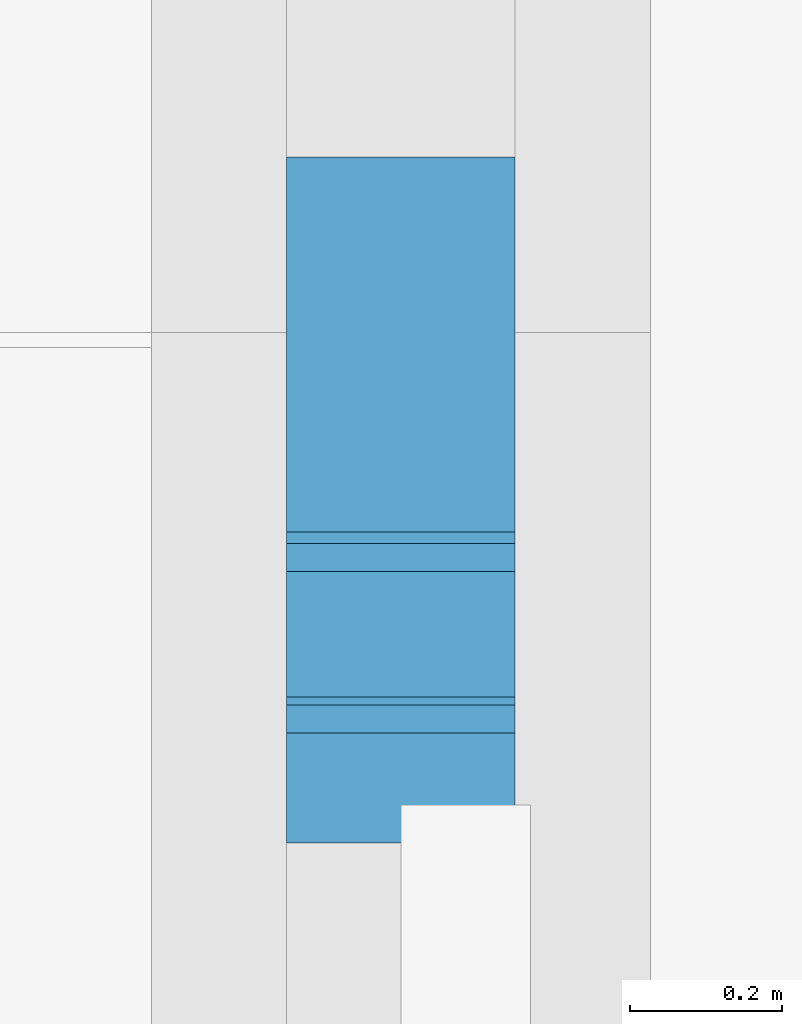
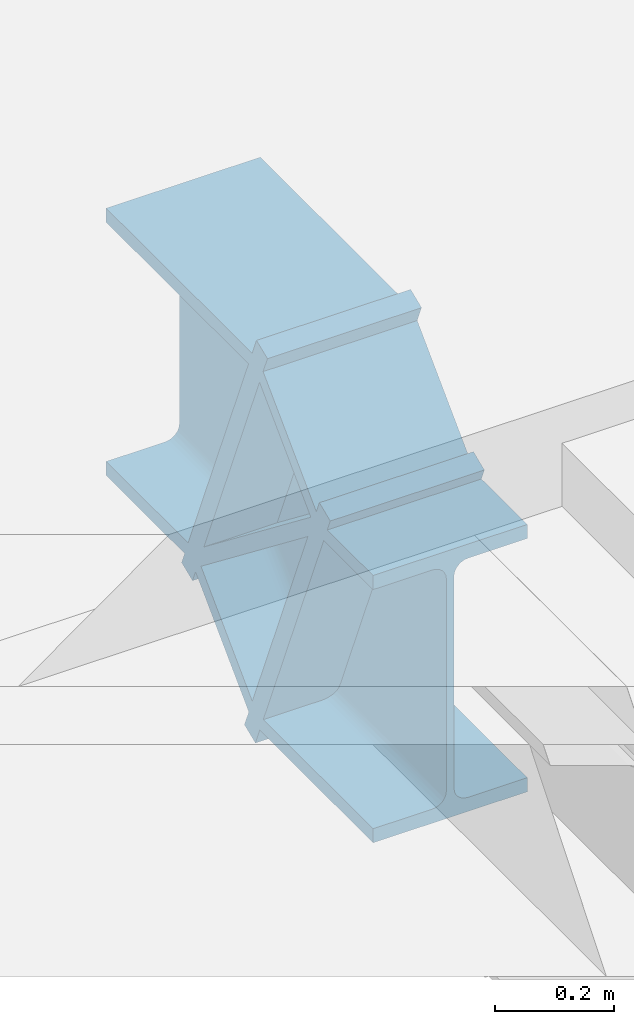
# One storey, part 45 of 50: 1 beam.
"""IFC2X3 building model written with IfcOpenShell, lengths in millimetres."""

from ifc_helpers import new_model, entity, si_unit, converted_unit, derived_unit, direction, frame, origin, place, context, subcontext, project, spatial, faceted_brep, source, transform, mapped, material, type_object, type_shapes, element, save


model = new_model("IFC2X3")

# Units and contexts
model_context = context("Model", 3, precision=0.01, world=origin(), true_north=direction((6.12303176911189e-17, 1.0)))
body_context = subcontext(model_context, "Body", "Model", "MODEL_VIEW")
ifc_project = project(units=[si_unit("LENGTHUNIT", "METRE", prefix="MILLI"), si_unit("AREAUNIT", "SQUARE_METRE", prefix="MILLI"), si_unit("VOLUMEUNIT", "CUBIC_METRE"), converted_unit("PLANEANGLEUNIT", "DEGREE", entity("IfcRatioMeasure", 0.0174532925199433), si_unit("PLANEANGLEUNIT", "RADIAN"), dimensions=[0, 0, 0, 0, 0, 0, 0]), si_unit("MASSUNIT", "GRAM", prefix="KILO"), derived_unit("MASSDENSITYUNIT", [(si_unit("MASSUNIT", "GRAM", prefix="KILO"), 1), (si_unit("LENGTHUNIT", "METRE"), -3)]), derived_unit("MOMENTOFINERTIAUNIT", [(si_unit("LENGTHUNIT", "METRE"), 4)]), si_unit("TIMEUNIT", "SECOND"), si_unit("FREQUENCYUNIT", "HERTZ"), si_unit("THERMODYNAMICTEMPERATUREUNIT", "DEGREE_CELSIUS"), derived_unit("THERMALTRANSMITTANCEUNIT", [(si_unit("MASSUNIT", "GRAM", prefix="KILO"), 1), (si_unit("THERMODYNAMICTEMPERATUREUNIT", "KELVIN"), -1), (si_unit("TIMEUNIT", "SECOND"), -3)]), derived_unit("VOLUMETRICFLOWRATEUNIT", [(si_unit("LENGTHUNIT", "METRE"), 3), (si_unit("TIMEUNIT", "SECOND"), -1)]), si_unit("ELECTRICCURRENTUNIT", "AMPERE"), si_unit("ELECTRICVOLTAGEUNIT", "VOLT"), si_unit("POWERUNIT", "WATT"), si_unit("FORCEUNIT", "NEWTON", prefix="KILO"), si_unit("ILLUMINANCEUNIT", "LUX"), si_unit("LUMINOUSFLUXUNIT", "LUMEN"), si_unit("LUMINOUSINTENSITYUNIT", "CANDELA"), derived_unit("USERDEFINED", [(si_unit("MASSUNIT", "GRAM", prefix="KILO"), -1), (si_unit("LENGTHUNIT", "METRE"), -2), (si_unit("TIMEUNIT", "SECOND"), 3), (si_unit("LUMINOUSFLUXUNIT", "LUMEN"), 1)]), derived_unit("LINEARVELOCITYUNIT", [(si_unit("LENGTHUNIT", "METRE"), 1), (si_unit("TIMEUNIT", "SECOND"), -1)]), si_unit("PRESSUREUNIT", "PASCAL"), derived_unit("USERDEFINED", [(si_unit("LENGTHUNIT", "METRE"), -2), (si_unit("MASSUNIT", "GRAM", prefix="KILO"), 1), (si_unit("TIMEUNIT", "SECOND"), -2)]), derived_unit("LINEARFORCEUNIT", [(si_unit("MASSUNIT", "GRAM", prefix="KILO"), 1), (si_unit("LENGTHUNIT", "METRE"), 1), (si_unit("TIMEUNIT", "SECOND"), -2), (si_unit("LENGTHUNIT", "METRE"), -1)]), derived_unit("PLANARFORCEUNIT", [(si_unit("MASSUNIT", "GRAM", prefix="KILO"), 1), (si_unit("LENGTHUNIT", "METRE"), 1), (si_unit("TIMEUNIT", "SECOND"), -2), (si_unit("LENGTHUNIT", "METRE"), -2)])], contexts=[model_context])

# Site, building, storey
site_placement = place(None, origin())
site = spatial("IfcSite", under=ifc_project, at=site_placement, Name="Theater aan de Parade", CompositionType="ELEMENT")
building_placement = place(site_placement, origin())
building = spatial("IfcBuilding", under=site, at=building_placement, Name="Theater aan de Parade", CompositionType="ELEMENT")
storey_placement = place(building_placement, frame((0.0, 0.0, 15820.0)))
storey = spatial("IfcBuildingStorey", under=building, at=storey_placement, Name="04 vierde verdieping", CompositionType="ELEMENT", Elevation=15820.0)

# Beam
ifc_material = material(Name="00_PBT_MAT_staal_S355")
beam_type = type_object("IfcBeamType", Name="28_PBT_SF_staal_H-profiel_geknikt:S355_HE550B_knikhoogte=210", PredefinedType="BEAM", material=ifc_material)
shared_shape = source(origin(), body_context, "Body", "Brep", [
    faceted_brep([(300.0, 900.0, 795.371363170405), (300.0, 386.091270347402, 795.371363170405), (300.0, 176.091270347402, 585.371363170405), (300.0, 0.0, 585.371363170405), (300.0, 0.0, 556.371363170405), (300.0, 188.103463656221, 556.371363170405), (300.0, 398.103463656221, 766.371363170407), (300.0, 900.0, 766.371363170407), (300.0, 900.0, 274.371363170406), (300.0, 601.896536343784, 274.371363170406), (300.0, 391.896536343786, 64.3713631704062), (300.0, 0.0, 64.3713631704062), (300.0, 0.0, 35.3713631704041), (300.0, 403.908729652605, 35.3713631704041), (300.0, 613.908729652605, 245.371363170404), (300.0, 900.0, 245.371363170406), (168.304262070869, 588.559391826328, 760.723189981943), (163.242517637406, 650.719886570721, 755.689863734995), (168.25906070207, 761.551343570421, 760.68858002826), (159.593312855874, 708.244302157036, 749.395157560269), (158.017580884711, 654.747168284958, 744.181641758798), (158.437039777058, 900.0, 745.988886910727), (157.500000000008, 592.6008633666, 738.871363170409), (157.500000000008, 716.893473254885, 738.871363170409), (171.250000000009, 399.629551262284, 762.687061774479), (174.476205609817, 649.814775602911, 764.278050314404), (177.882476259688, 398.491598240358, 765.434323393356), (185.0, 398.103463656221, 766.371363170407), (179.919141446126, 559.813622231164, 765.897921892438), (185.0, 649.051731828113, 766.371363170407), (165.55456351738, 401.439773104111, 758.316799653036), (177.882476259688, 900.0, 765.434323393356), (179.641890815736, 731.812000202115, 765.844324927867), (171.250000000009, 900.0, 762.687061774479), (185.0, 900.0, 766.371363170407), (165.55456351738, 900.0, 758.316799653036), (159.161507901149, 551.362152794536, 748.285306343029), (161.184301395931, 403.798900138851, 752.621363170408), (158.437039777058, 406.546161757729, 745.988886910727), (157.500000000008, 409.494336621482, 738.871363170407), (157.500000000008, 900.0, 738.871363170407), (161.18430139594, 900.0, 752.621363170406), (157.500000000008, 590.505663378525, 301.871363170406), (157.500000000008, 773.612190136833, 301.871363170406), (157.500000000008, 900.0, 301.871363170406), (157.500000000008, 304.494336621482, 633.871363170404), (157.500000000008, 199.494336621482, 528.871363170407), (157.499999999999, 0.0, 528.871363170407), (157.499999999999, 0.0, 91.8713631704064), (157.500000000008, 183.106526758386, 91.8713631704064), (157.500000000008, 380.505663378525, 91.8713631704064), (157.500000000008, 485.505663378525, 196.871363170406), (127.024330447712, 750.185224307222, 277.139491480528), (128.75000000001, 900.0, 278.055664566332), (122.117523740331, 900.0, 275.308402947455), (122.117523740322, 601.508401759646, 275.308402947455), (122.181112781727, 750.754200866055, 275.325523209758), (115.0, 716.893653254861, 274.371363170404), (141.976082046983, 752.754606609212, 296.528985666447), (140.406687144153, 748.100549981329, 291.347568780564), (141.56296022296, 593.453838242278, 294.753839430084), (134.445436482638, 900.0, 282.425926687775), (131.740939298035, 750.185224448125, 280.054146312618), (137.720207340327, 748.100549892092, 286.378068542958), (115.0, 900.0, 274.371363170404), (142.500000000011, 773.612190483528, 301.871363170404), (142.500000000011, 900.0, 301.871363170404), (142.500000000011, 590.505663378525, 301.871363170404), (138.815698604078, 596.201099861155, 288.121363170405), (128.75000000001, 600.37044873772, 278.055664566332), (134.445436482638, 598.560226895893, 282.425926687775), (141.56296022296, 900.0, 294.753839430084), (138.815698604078, 900.0, 288.121363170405), (115.0, 601.896536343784, 274.371363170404), (138.815698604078, 403.798900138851, 752.621363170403), (136.817216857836, 651.899450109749, 755.612302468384), (140.373732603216, 591.87504764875, 749.474367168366), (141.56296022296, 900.0, 745.988886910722), (141.962206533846, 654.747168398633, 744.283333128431), (140.699227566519, 755.521656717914, 748.659095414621), (141.562960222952, 406.546161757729, 745.988886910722), (142.500000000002, 592.601071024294, 738.871363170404), (134.445436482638, 900.0, 758.316799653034), (138.815698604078, 900.0, 752.621363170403), (131.74093929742, 710.890157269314, 760.688580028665), (128.75000000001, 900.0, 762.687061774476), (142.500000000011, 716.893265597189, 738.871363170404), (122.117523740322, 398.491598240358, 765.434323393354), (115.0, 398.103463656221, 766.371363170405), (120.371872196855, 566.886534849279, 765.841587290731), (120.06892635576, 738.828899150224, 765.900162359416), (115.0, 649.051731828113, 766.371363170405), (142.500000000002, 409.494336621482, 738.871363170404), (142.500000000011, 900.0, 738.871363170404), (134.445436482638, 401.439773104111, 758.316799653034), (122.117523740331, 900.0, 765.434323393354), (125.523794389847, 649.814775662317, 764.278050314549), (115.0, 900.0, 766.371363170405), (131.70780938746, 538.374718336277, 760.71396158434), (128.75000000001, 399.629551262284, 762.687061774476), (0.0, 900.0, 766.371363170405), (0.0, 398.103463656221, 766.371363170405), (0.0, 188.103463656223, 556.371363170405), (0.0, 0.0, 556.371363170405), (0.0, 0.0, 585.371363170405), (0.0, 176.091270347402, 585.371363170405), (0.0, 386.091270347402, 795.371363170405), (0.0, 900.0, 795.371363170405), (0.0, 900.0, 245.371363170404), (0.0, 613.908729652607, 245.371363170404), (0.0, 403.908729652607, 35.3713631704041), (0.0, 0.0, 35.3713631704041), (0.0, 0.0, 64.371363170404), (0.0, 391.896536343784, 64.371363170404), (0.0, 601.896536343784, 274.371363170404), (0.0, 900.0, 274.371363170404), (140.380740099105, 301.036031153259, 645.384232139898), (141.968729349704, 302.775221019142, 639.759827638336), (138.815698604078, 193.798900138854, 542.621363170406), (135.778811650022, 297.452210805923, 652.304361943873), (131.776369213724, 294.781927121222, 654.974645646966), (142.500000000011, 304.494336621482, 633.871363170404), (142.500000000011, 199.494336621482, 528.871363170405), (134.445436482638, 191.439773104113, 548.316799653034), (141.56296022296, 196.546161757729, 535.988886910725), (120.235943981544, 293.184726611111, 660.741195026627), (122.117523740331, 188.49159824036, 555.434323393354), (115.0, 188.103463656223, 556.371363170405), (115.0, 293.103463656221, 661.371363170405), (125.497777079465, 294.301597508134, 659.624324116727), (128.75000000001, 189.629551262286, 552.687061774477), (185.0, 188.103463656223, 556.371363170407), (185.0, 268.627596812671, 636.895496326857), (115.0, 0.0, 556.371363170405), (122.117523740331, 0.0, 555.434323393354), (128.75000000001, 0.0, 552.687061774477), (134.445436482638, 0.0, 548.316799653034), (138.815698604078, 0.0, 542.621363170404), (141.56296022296, 0.0, 535.988886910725), (142.500000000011, 0.0, 528.871363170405), (142.500000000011, 0.0, 91.8713631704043), (141.56296022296, 0.0, 84.7538394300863), (138.815698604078, 0.0, 78.1213631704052), (134.445436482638, 0.0, 72.4259266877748), (128.75000000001, 0.0, 68.0556645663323), (122.117523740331, 0.0, 65.3084029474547), (115.0, 0.0, 64.371363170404), (185.0, 0.0, 64.3713631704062), (177.882476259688, 0.0, 65.3084029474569), (171.250000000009, 0.0, 68.0556645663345), (165.55456351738, 0.0, 72.425926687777), (161.18430139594, 0.0, 78.1213631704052), (158.437039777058, 0.0, 84.7538394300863), (158.437039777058, 0.0, 535.988886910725), (161.18430139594, 0.0, 542.621363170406), (165.55456351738, 0.0, 548.316799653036), (171.250000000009, 0.0, 552.687061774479), (177.882476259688, 0.0, 555.434323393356), (185.0, 0.0, 556.371363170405), (131.705465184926, 493.976524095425, 174.449589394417), (128.75000000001, 390.370448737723, 68.0556645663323), (127.021881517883, 496.019122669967, 172.406990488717), (134.445436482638, 388.560226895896, 72.4259266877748), (122.203489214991, 496.492008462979, 170.324796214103), (115.0, 521.372341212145, 193.847168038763), (115.0, 391.896536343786, 64.371363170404), (141.990311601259, 488.487646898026, 192.40041710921), (142.500000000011, 380.505663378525, 91.8713631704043), (142.500000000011, 461.029796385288, 172.395496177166), (135.688939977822, 492.620725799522, 178.365427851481), (138.815698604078, 386.201099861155, 78.1213631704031), (122.117523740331, 391.508401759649, 65.3084029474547), (141.56296022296, 383.453838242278, 84.7538394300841), (140.432480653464, 490.818249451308, 187.389428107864), (185.0, 900.0, 274.371363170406), (185.0, 716.893473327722, 274.371363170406), (185.0, 601.896536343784, 274.371363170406), (185.0, 521.372403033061, 193.84722985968), (185.0, 391.896536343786, 64.3713631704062), (115.0, 208.789982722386, 64.371363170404), (185.0, 195.948268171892, 64.3713631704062), (165.55456351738, 191.439773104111, 548.316799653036), (171.250000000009, 189.629551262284, 552.687061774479), (177.882476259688, 188.491598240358, 555.434323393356), (158.437039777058, 196.546161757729, 535.988886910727), (161.18430139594, 193.798900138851, 542.621363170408), (159.593312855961, 748.100549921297, 291.347568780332), (162.279792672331, 748.100549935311, 286.37806852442), (161.18430139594, 900.0, 288.121363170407), (158.023917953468, 752.754606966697, 296.528985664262), (158.437039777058, 593.453838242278, 294.753839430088), (177.882476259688, 900.0, 275.308402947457), (179.692753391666, 749.411870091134, 274.888347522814), (161.184301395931, 596.201099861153, 288.121363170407), (165.55456351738, 598.560226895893, 282.425926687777), (168.223096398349, 749.280113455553, 280.081789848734), (165.55456351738, 900.0, 282.425926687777), (158.437039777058, 900.0, 294.753839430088), (171.250000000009, 600.37044873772, 278.055664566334), (174.476205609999, 750.754200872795, 276.464676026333), (177.882476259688, 601.508401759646, 275.308402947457), (171.250000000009, 900.0, 278.055664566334), (142.500000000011, 190.252831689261, 91.8713631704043), (174.50222291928, 294.301597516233, 659.624324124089), (179.708850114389, 292.397943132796, 659.93918676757), (158.031270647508, 302.775221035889, 639.759827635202), (168.223630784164, 294.781927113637, 654.974645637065), (164.221188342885, 297.452210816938, 652.304361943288), (159.619259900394, 301.036031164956, 645.384232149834), (171.250000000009, 390.370448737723, 68.0556645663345), (174.450199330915, 496.487819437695, 171.938293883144), (169.612650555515, 494.646649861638, 173.779463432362), (165.55456351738, 388.560226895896, 72.425926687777), (159.567519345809, 490.818249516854, 187.389428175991), (157.991465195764, 487.080841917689, 191.126835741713), (179.679590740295, 496.803592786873, 170.013211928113), (161.18430139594, 386.201099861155, 78.1213631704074), (162.126438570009, 492.273060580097, 182.049402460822), (158.437039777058, 383.453838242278, 84.7538394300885), (165.635567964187, 493.617268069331, 177.368885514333), (177.882476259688, 391.508401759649, 65.3084029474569), (120.232315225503, 152.062725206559, 64.8737173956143), (125.523794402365, 180.222747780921, 66.4646760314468), (131.740939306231, 194.280113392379, 70.0541463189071), (136.77439725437, 209.417972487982, 75.0747675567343), (141.96059642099, 153.449982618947, 86.4513778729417), (140.372842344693, 193.100549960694, 81.266228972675), (159.593312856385, 180.140479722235, 81.3475687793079), (163.182783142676, 193.100549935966, 75.1304238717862), (174.510537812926, 195.75420087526, 66.450482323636), (179.654163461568, 152.295440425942, 64.8959663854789), (158.02636499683, 149.979938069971, 86.5166442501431), (168.25906070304, 180.140479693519, 70.05414631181)], [[[0, 1, 2, 3, 4, 5, 6, 7]], [[8, 9, 10, 11, 12, 13, 14, 15]], [[16, 17, 18]], [[19, 20, 21]], [[20, 22, 23]], [[24, 16, 25]], [[25, 26, 24]], [[27, 28, 29]], [[24, 30, 16]], [[31, 32, 25]], [[31, 25, 33]], [[31, 34, 32]], [[33, 18, 35]], [[36, 37, 38]], [[28, 32, 29]], [[16, 30, 17]], [[33, 25, 18]], [[22, 38, 39]], [[23, 40, 21]], [[17, 19, 41]], [[30, 37, 17]], [[23, 21, 20]], [[19, 17, 36]], [[20, 36, 38]], [[36, 20, 19]], [[19, 21, 41]], [[22, 20, 38]], [[35, 17, 41]], [[37, 36, 17]], [[35, 18, 17]], [[16, 18, 25]], [[26, 25, 28]], [[29, 32, 34]], [[32, 28, 25]], [[26, 28, 27]], [[42, 43, 44, 40, 23, 22, 39, 45, 46, 47, 48, 49, 50, 51]], [[52, 53, 54]], [[55, 56, 57]], [[58, 59, 60]], [[61, 53, 62]], [[63, 61, 62]], [[57, 56, 64]], [[65, 66, 58, 67]], [[53, 52, 62]], [[68, 59, 63]], [[62, 69, 70]], [[56, 52, 54]], [[71, 72, 59]], [[55, 52, 56]], [[73, 55, 57]], [[58, 66, 71]], [[63, 70, 68]], [[59, 72, 63]], [[62, 70, 63]], [[60, 67, 58]], [[68, 60, 59]], [[71, 59, 58]], [[52, 55, 69]], [[72, 61, 63]], [[56, 54, 64]], [[69, 62, 52]], [[74, 75, 76]], [[77, 78, 79]], [[80, 78, 81]], [[82, 83, 75]], [[84, 85, 82]], [[78, 77, 86]], [[87, 88, 89]], [[90, 89, 91]], [[81, 92, 80]], [[77, 93, 86]], [[80, 74, 76]], [[75, 74, 94]], [[79, 83, 77]], [[95, 85, 96]], [[79, 78, 76]], [[81, 78, 86]], [[90, 91, 97]], [[75, 79, 76]], [[98, 84, 75]], [[84, 96, 85]], [[87, 96, 99]], [[96, 87, 89]], [[98, 99, 96]], [[82, 75, 84]], [[80, 76, 78]], [[98, 94, 99]], [[83, 79, 75]], [[94, 98, 75]], [[84, 98, 96]], [[95, 96, 90]], [[91, 89, 88]], [[89, 90, 96]], [[95, 90, 97]], [[100, 101, 102, 103, 104, 105, 106, 107]], [[108, 109, 110, 111, 112, 113, 114, 115]], [[74, 80, 116]], [[117, 80, 92]], [[118, 119, 116]], [[94, 120, 99]], [[121, 122, 117, 92]], [[123, 120, 119]], [[116, 80, 117]], [[116, 117, 124]], [[125, 126, 127]], [[119, 120, 94]], [[125, 127, 128, 88]], [[87, 99, 129]], [[118, 116, 124]], [[74, 116, 119]], [[126, 129, 130]], [[130, 120, 123]], [[87, 129, 125]], [[125, 129, 126]], [[120, 130, 129]], [[87, 125, 88]], [[119, 94, 74]], [[120, 129, 99]], [[124, 117, 122]], [[123, 119, 118]], [[6, 5, 131, 132, 27]], [[101, 88, 128, 127, 102]], [[109, 14, 13, 110]], [[4, 3, 104, 103, 133, 134, 135, 136, 137, 138, 139, 140, 141, 142, 143, 144, 145, 146, 112, 111, 12, 11, 147, 148, 149, 150, 151, 152, 48, 47, 153, 154, 155, 156, 157, 158]], [[69, 159, 70]], [[160, 159, 161]], [[162, 159, 160]], [[161, 159, 69]], [[163, 164, 165]], [[73, 164, 55]], [[166, 167, 168, 67]], [[70, 169, 68]], [[161, 55, 163]], [[169, 162, 170]], [[70, 159, 169]], [[160, 161, 171]], [[161, 69, 55]], [[163, 55, 164]], [[167, 166, 172]], [[173, 60, 68]], [[172, 173, 170]], [[159, 162, 169]], [[169, 170, 173]], [[173, 172, 166]], [[60, 166, 67]], [[163, 171, 161]], [[169, 173, 68]], [[165, 171, 163]], [[60, 173, 166]], [[34, 7, 6, 27, 29]], [[100, 97, 91, 88, 101]], [[8, 174, 175, 176, 9]], [[115, 114, 73, 57, 64]], [[108, 15, 14, 109]], [[73, 114, 113, 165, 164]], [[9, 176, 177, 178, 10]], [[1, 106, 105, 2]], [[113, 112, 146, 179, 165]], [[10, 178, 180, 147, 11]], [[155, 181, 182, 156]], [[156, 182, 183, 157]], [[157, 183, 131, 158]], [[47, 46, 184, 153]], [[153, 184, 185, 154]], [[155, 154, 185, 181]], [[186, 187, 188]], [[189, 190, 186]], [[191, 192, 174]], [[187, 186, 193]], [[194, 195, 187]], [[188, 187, 196]], [[187, 193, 194]], [[189, 44, 43, 42]], [[197, 186, 188]], [[186, 197, 189]], [[196, 187, 195]], [[190, 189, 42]], [[176, 175, 174, 192]], [[198, 199, 195]], [[199, 200, 192]], [[198, 195, 194]], [[186, 190, 193]], [[192, 200, 176]], [[199, 191, 201]], [[197, 44, 189]], [[199, 198, 200]], [[195, 199, 201]], [[192, 191, 199]], [[196, 195, 201]], [[138, 137, 118, 124]], [[139, 138, 124, 122]], [[136, 123, 118, 137]], [[134, 133, 127, 126]], [[135, 134, 126, 130]], [[135, 130, 123, 136]], [[2, 105, 104, 3]], [[131, 5, 4, 158]], [[102, 127, 133, 103]], [[34, 31, 33, 35, 41, 21, 40, 44, 197, 188, 196, 201, 191, 174, 8, 15, 108, 115, 64, 54, 53, 61, 72, 71, 66, 93, 77, 83, 82, 85, 95, 97, 100, 107, 0, 7]], [[93, 66, 65, 67, 168, 167, 202, 140, 139, 122, 121, 92, 81, 86]], [[0, 107, 106, 1]], [[183, 203, 204]], [[45, 39, 205, 46]], [[24, 26, 203]], [[132, 131, 204, 27]], [[206, 24, 203]], [[181, 206, 182]], [[182, 203, 183]], [[30, 24, 206]], [[204, 26, 27]], [[205, 39, 38]], [[207, 37, 30]], [[38, 37, 208]], [[205, 38, 208]], [[204, 203, 26]], [[184, 205, 208]], [[203, 182, 206]], [[185, 207, 181]], [[30, 206, 207]], [[46, 205, 184]], [[185, 184, 208]], [[204, 131, 183]], [[207, 206, 181]], [[185, 208, 207]], [[208, 37, 207]], [[209, 210, 211]], [[211, 212, 209]], [[213, 193, 190]], [[42, 214, 190]], [[177, 176, 215, 178]], [[214, 213, 190]], [[216, 212, 217]], [[216, 213, 218]], [[217, 213, 216]], [[217, 193, 213]], [[212, 211, 219]], [[200, 215, 176]], [[220, 178, 215]], [[210, 220, 215]], [[210, 200, 198]], [[214, 50, 218]], [[211, 210, 198]], [[217, 194, 193]], [[220, 210, 209]], [[215, 200, 210]], [[51, 50, 214, 42]], [[219, 194, 217]], [[198, 194, 211]], [[212, 219, 217]], [[218, 213, 214]], [[219, 211, 194]], [[221, 222, 171]], [[179, 221, 171]], [[145, 221, 146]], [[222, 144, 223]], [[171, 165, 179]], [[222, 145, 144]], [[143, 223, 144]], [[146, 221, 179]], [[162, 160, 223]], [[170, 162, 224]], [[202, 225, 140]], [[160, 222, 223]], [[172, 170, 226]], [[142, 226, 224]], [[224, 226, 170]], [[141, 225, 226]], [[224, 143, 142]], [[224, 223, 143]], [[140, 225, 141]], [[142, 141, 226]], [[172, 225, 202]], [[167, 172, 202]], [[171, 222, 160]], [[162, 223, 224]], [[226, 225, 172]], [[145, 222, 221]], [[227, 228, 216]], [[229, 230, 220]], [[50, 49, 48, 231]], [[151, 227, 152]], [[228, 212, 216]], [[218, 231, 227]], [[148, 147, 230]], [[218, 50, 231]], [[228, 232, 212]], [[232, 229, 209]], [[151, 150, 228]], [[180, 230, 147]], [[220, 209, 229]], [[220, 230, 180]], [[218, 227, 216]], [[178, 220, 180]], [[228, 227, 151]], [[232, 228, 150]], [[232, 149, 229]], [[232, 150, 149]], [[148, 230, 229]], [[152, 227, 231]], [[232, 209, 212]], [[152, 231, 48]], [[148, 229, 149]], [[110, 13, 12, 111]]]),
    faceted_brep([(300.0, 356.136788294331, 815.435841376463), (300.0, 608.799594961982, 205.432748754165), (300.0, 645.754963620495, 220.739633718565), (300.0, 393.092156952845, 830.742726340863), (0.0, 393.092156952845, 830.742726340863), (0.0, 356.136788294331, 815.435841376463), (0.0, 608.799594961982, 205.432748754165), (0.0, 645.754963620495, 220.739633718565)], [[[0, 1, 2, 3]], [[4, 5, 0, 3]], [[5, 6, 1, 0]], [[6, 7, 2, 1]], [[5, 4, 7, 6]], [[7, 4, 3, 2]]]),
    faceted_brep([(0.0, 144.245036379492, 610.003092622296), (0.0, 181.200405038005, 625.309977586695), (0.0, 433.863211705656, 15.3068849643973), (0.0, 396.907843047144, 0.0), (300.0, 181.200405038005, 625.309977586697), (300.0, 433.863211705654, 15.3068849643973), (300.0, 396.90784304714, 0.0), (300.0, 144.245036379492, 610.003092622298)], [[[0, 1, 2, 3]], [[2, 1, 4, 5]], [[3, 2, 5, 6]], [[7, 6, 5, 4]], [[0, 3, 6, 7]], [[1, 0, 7, 4]]]),
    faceted_brep([(300.0, 623.108989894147, 257.218523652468), (300.0, 604.708469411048, 233.52420268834), (0.0, 604.70846941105, 233.52420268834), (0.0, 623.108989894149, 257.218523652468), (300.0, 185.291530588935, 597.218523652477), (0.0, 185.291530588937, 597.218523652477), (0.0, 166.891010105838, 573.52420268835), (300.0, 166.891010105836, 573.52420268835)], [[[0, 1, 2, 3]], [[4, 5, 6, 7]], [[1, 0, 4, 7]], [[2, 1, 7, 6]], [[3, 2, 6, 5]], [[0, 3, 5, 4]]]),
])
type_shapes(beam_type, [shared_shape])
beam_placement = place(storey_placement, frame((64194.5520755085, 15666.8033360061, -250.371363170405)))
element("IfcBeam", 1, at=beam_placement, inside=storey, type_object=beam_type, material=ifc_material, Name="28_PBT_SF_staal_H-profiel_geknikt:S355_HE550B_knikhoogte=210", ObjectType="28_PBT_SF_staal_H-profiel_geknikt:S355_HE550B_knikhoogte=210", context=body_context, shape_type="MappedRepresentation", body=[
    mapped(shared_shape, transform((0.0, 0.0, 0.0), scale=1.0)),
])

save(model, "model.ifc")
